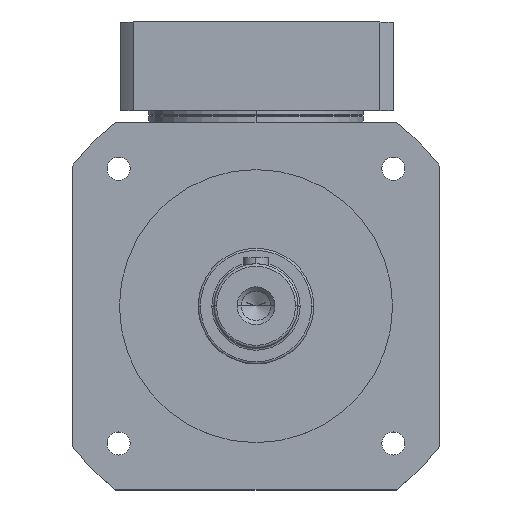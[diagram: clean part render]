
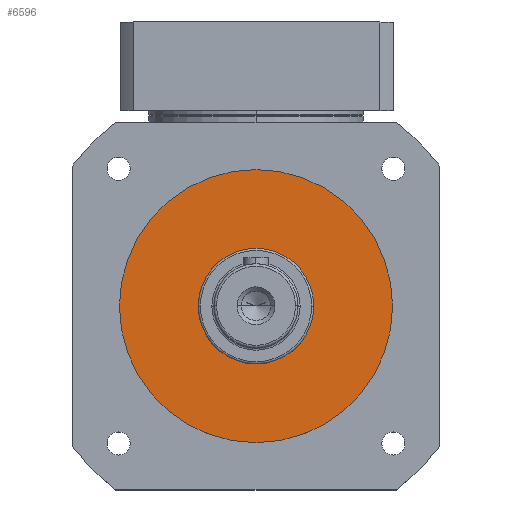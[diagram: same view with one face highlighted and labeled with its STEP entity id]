
A CAD part, top view. The second image highlights one B-rep face of the part: STEP entity #6596.
In plain terms, the highlighted planar face has unit normal (0, 0, 1).
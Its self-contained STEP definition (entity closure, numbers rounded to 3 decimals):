
#121 = DIRECTION ( 'NONE',  ( 1., 0., 0. ) ) ;
#199 = VERTEX_POINT ( 'NONE', #561 ) ;
#311 = EDGE_LOOP ( 'NONE', ( #5671, #2566 ) ) ;
#471 = VERTEX_POINT ( 'NONE', #4343 ) ;
#561 = CARTESIAN_POINT ( 'NONE',  ( 27.5, 0., 19. ) ) ;
#763 = CIRCLE ( 'NONE', #8120, 65. ) ;
#896 = CARTESIAN_POINT ( 'NONE',  ( 65., 0., 19. ) ) ;
#926 = ORIENTED_EDGE ( 'NONE', *, *, #3865, .F. ) ;
#1086 = CIRCLE ( 'NONE', #5220, 65. ) ;
#1215 = CIRCLE ( 'NONE', #6440, 27.5 ) ;
#1503 = EDGE_CURVE ( 'NONE', #471, #2916, #1086, .T. ) ;
#1543 = VERTEX_POINT ( 'NONE', #6244 ) ;
#2308 = DIRECTION ( 'NONE',  ( 1., 0., 0. ) ) ;
#2536 = CARTESIAN_POINT ( 'NONE',  ( 0., 0., 19. ) ) ;
#2566 = ORIENTED_EDGE ( 'NONE', *, *, #4061, .T. ) ;
#2805 = CARTESIAN_POINT ( 'NONE',  ( 0., 0., 19. ) ) ;
#2916 = VERTEX_POINT ( 'NONE', #896 ) ;
#3075 = DIRECTION ( 'NONE',  ( 1., 0., 0. ) ) ;
#3124 = DIRECTION ( 'NONE',  ( 1., 0., 0. ) ) ;
#3154 = CARTESIAN_POINT ( 'NONE',  ( 0., 0., 19. ) ) ;
#3174 = DIRECTION ( 'NONE',  ( 1., 0., 0. ) ) ;
#3503 = CIRCLE ( 'NONE', #7497, 27.5 ) ;
#3654 = DIRECTION ( 'NONE',  ( 0., 0., 1. ) ) ;
#3865 = EDGE_CURVE ( 'NONE', #1543, #199, #1215, .T. ) ;
#4061 = EDGE_CURVE ( 'NONE', #2916, #471, #763, .T. ) ;
#4288 = DIRECTION ( 'NONE',  ( 0., 0., 1. ) ) ;
#4343 = CARTESIAN_POINT ( 'NONE',  ( -65., 0., 19. ) ) ;
#4555 = PLANE ( 'NONE',  #8778 ) ;
#5220 = AXIS2_PLACEMENT_3D ( 'NONE', #2536, #5328, #3124 ) ;
#5315 = DIRECTION ( 'NONE',  ( 0., 0., 1. ) ) ;
#5328 = DIRECTION ( 'NONE',  ( 0., 0., 1. ) ) ;
#5483 = DIRECTION ( 'NONE',  ( 0., 0., 1. ) ) ;
#5538 = CARTESIAN_POINT ( 'NONE',  ( 0., 0., 19. ) ) ;
#5671 = ORIENTED_EDGE ( 'NONE', *, *, #1503, .T. ) ;
#6158 = EDGE_LOOP ( 'NONE', ( #926, #7311 ) ) ;
#6244 = CARTESIAN_POINT ( 'NONE',  ( -27.5, 0., 19. ) ) ;
#6440 = AXIS2_PLACEMENT_3D ( 'NONE', #8741, #3654, #2308 ) ;
#6596 = ADVANCED_FACE ( 'NONE', ( #7268, #9388 ), #4555, .T. ) ;
#7268 = FACE_BOUND ( 'NONE', #6158, .T. ) ;
#7311 = ORIENTED_EDGE ( 'NONE', *, *, #9053, .F. ) ;
#7497 = AXIS2_PLACEMENT_3D ( 'NONE', #3154, #5315, #121 ) ;
#8120 = AXIS2_PLACEMENT_3D ( 'NONE', #5538, #5483, #3174 ) ;
#8741 = CARTESIAN_POINT ( 'NONE',  ( 0., 0., 19. ) ) ;
#8778 = AXIS2_PLACEMENT_3D ( 'NONE', #2805, #4288, #3075 ) ;
#9053 = EDGE_CURVE ( 'NONE', #199, #1543, #3503, .T. ) ;
#9388 = FACE_OUTER_BOUND ( 'NONE', #311, .T. ) ;
